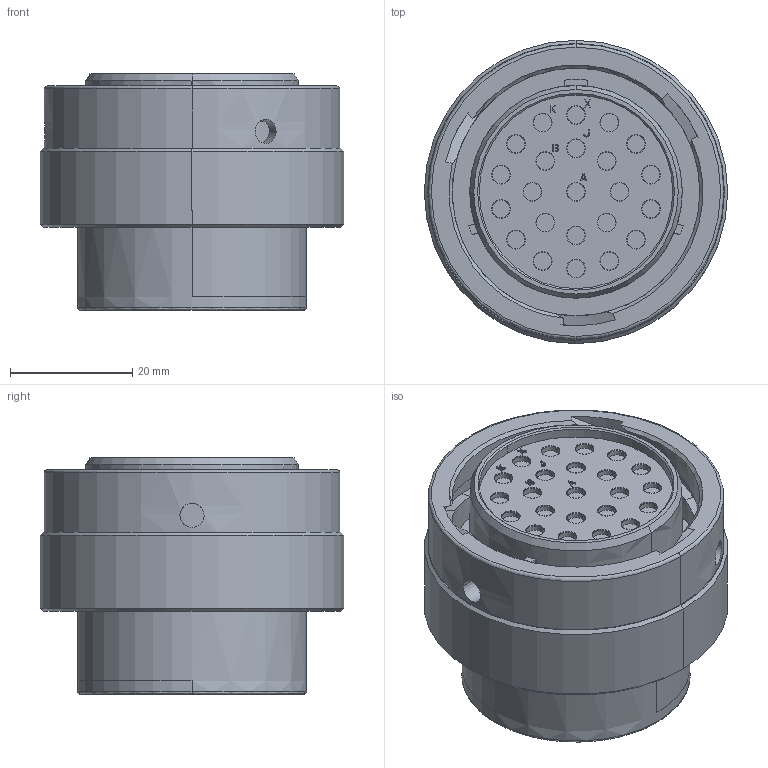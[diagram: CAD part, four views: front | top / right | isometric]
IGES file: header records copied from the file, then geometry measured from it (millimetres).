
Start section:  PTC IGES file: c-hdp26-24-23st-a-3d.igs
Global section: file name: c-hdp26-24-23st-a-3d.igs; native system: Creo Parametric by PTC Inc.; preprocessor: 2016050; author: workeradm; organization: Unknown; units: millimetre
Bounding box: 49.53 x 49.53 x 38.63 mm (x, y, z)
Surface area: 13186.4 mm2 (no closed solid volume)
Topology: 0 solids, 0 shells, 560 faces, 2558 edges, 2558 vertices
Faces by surface type: revolution 328, bspline 232
